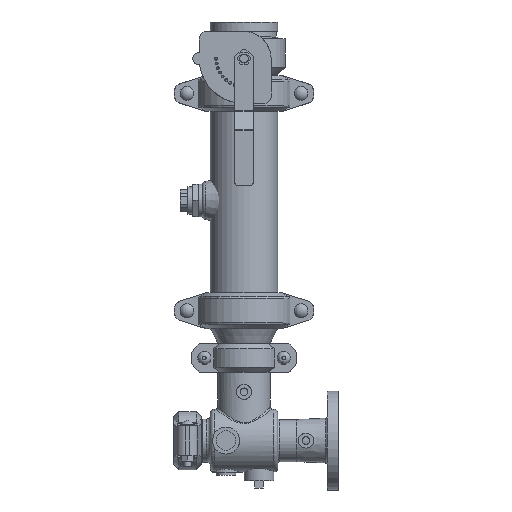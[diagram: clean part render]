
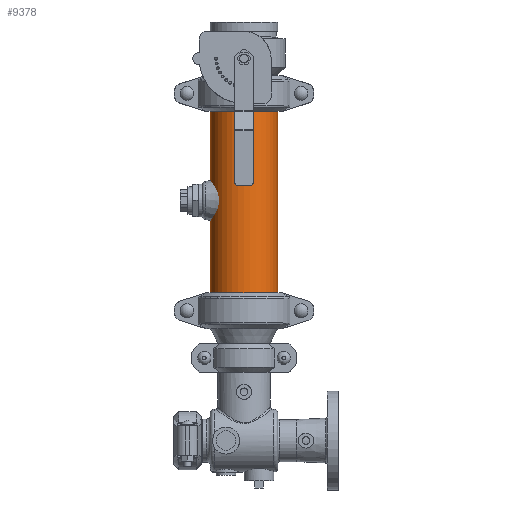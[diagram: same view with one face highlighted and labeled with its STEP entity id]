
A CAD part, top view. The second image highlights one B-rep face of the part: STEP entity #9378.
In plain terms, the highlighted cylindrical face has radius 57.15 mm (diameter 114.3 mm), a full revolution.
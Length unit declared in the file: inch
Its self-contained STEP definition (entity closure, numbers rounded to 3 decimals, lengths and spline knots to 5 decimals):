
#852=FACE_OUTER_BOUND('',#1430,.T.);
#1430=EDGE_LOOP('',(#7083,#7084,#7085,#7086,#7087,#7088));
#2040=CIRCLE('',#10411,2.25);
#2041=CIRCLE('',#10412,2.25);
#2042=CIRCLE('',#10414,2.25);
#2043=CIRCLE('',#10415,2.25);
#2592=LINE('',#16019,#3268);
#3268=VECTOR('',#12340,2.25);
#4084=VERTEX_POINT('',#16010);
#4085=VERTEX_POINT('',#16011);
#4086=VERTEX_POINT('',#16015);
#4087=VERTEX_POINT('',#16016);
#5156=EDGE_CURVE('',#4084,#4085,#2040,.T.);
#5157=EDGE_CURVE('',#4085,#4084,#2041,.T.);
#5158=EDGE_CURVE('',#4086,#4087,#2042,.T.);
#5159=EDGE_CURVE('',#4087,#4086,#2043,.T.);
#5160=EDGE_CURVE('',#4087,#4085,#2592,.T.);
#7083=ORIENTED_EDGE('',*,*,#5158,.F.);
#7084=ORIENTED_EDGE('',*,*,#5159,.F.);
#7085=ORIENTED_EDGE('',*,*,#5160,.T.);
#7086=ORIENTED_EDGE('',*,*,#5157,.T.);
#7087=ORIENTED_EDGE('',*,*,#5156,.T.);
#7088=ORIENTED_EDGE('',*,*,#5160,.F.);
#8524=CYLINDRICAL_SURFACE('',#10413,2.25);
#9378=ADVANCED_FACE('',(#852),#8524,.T.);
#10411=AXIS2_PLACEMENT_3D('',#16012,#12330,#12331);
#10412=AXIS2_PLACEMENT_3D('',#16013,#12332,#12333);
#10413=AXIS2_PLACEMENT_3D('',#16014,#12334,#12335);
#10414=AXIS2_PLACEMENT_3D('',#16017,#12336,#12337);
#10415=AXIS2_PLACEMENT_3D('',#16018,#12338,#12339);
#12330=DIRECTION('center_axis',(0.,-1.,0.));
#12331=DIRECTION('ref_axis',(1.,0.,0.));
#12332=DIRECTION('center_axis',(0.,-1.,0.));
#12333=DIRECTION('ref_axis',(1.,0.,0.));
#12334=DIRECTION('center_axis',(0.,-1.,0.));
#12335=DIRECTION('ref_axis',(1.,0.,0.));
#12336=DIRECTION('center_axis',(0.,-1.,0.));
#12337=DIRECTION('ref_axis',(1.,0.,0.));
#12338=DIRECTION('center_axis',(0.,-1.,0.));
#12339=DIRECTION('ref_axis',(1.,0.,0.));
#12340=DIRECTION('',(0.,1.,0.));
#16010=CARTESIAN_POINT('',(2.25,6.115,0.));
#16011=CARTESIAN_POINT('',(-2.25,6.115,0.));
#16012=CARTESIAN_POINT('Origin',(0.,6.115,0.));
#16013=CARTESIAN_POINT('Origin',(0.,6.115,0.));
#16014=CARTESIAN_POINT('Origin',(0.,0.,
0.));
#16015=CARTESIAN_POINT('',(2.25,-6.115,0.));
#16016=CARTESIAN_POINT('',(-2.25,-6.115,0.));
#16017=CARTESIAN_POINT('Origin',(0.,-6.115,0.));
#16018=CARTESIAN_POINT('Origin',(0.,-6.115,0.));
#16019=CARTESIAN_POINT('',(-2.25,0.,0.));
